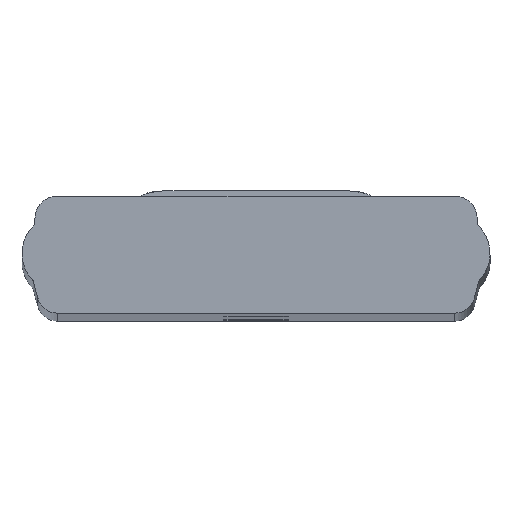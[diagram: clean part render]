
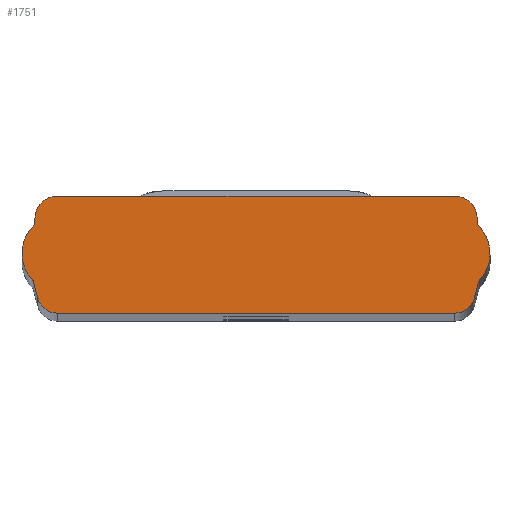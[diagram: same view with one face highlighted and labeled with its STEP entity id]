
A CAD part, top view. The second image highlights one B-rep face of the part: STEP entity #1751.
In plain terms, the highlighted planar face has unit normal (0, 0, 1).
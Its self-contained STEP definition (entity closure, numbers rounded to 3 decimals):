
#6 = VERTEX_POINT ( 'NONE', #3191 ) ;
#32 = LINE ( 'NONE', #732, #35 ) ;
#35 = VECTOR ( 'NONE', #725, 1000. ) ;
#193 = CARTESIAN_POINT ( 'NONE',  ( 21.692, 3.064, 448. ) ) ;
#194 = CARTESIAN_POINT ( 'NONE',  ( -21.268, 1.482, 448. ) ) ;
#337 = CARTESIAN_POINT ( 'NONE',  ( 21.795, 3.252, 448. ) ) ;
#393 = CARTESIAN_POINT ( 'NONE',  ( 19.5, 11.395, 448. ) ) ;
#425 = CARTESIAN_POINT ( 'NONE',  ( -21.692, 3.064, 448. ) ) ;
#525 = CARTESIAN_POINT ( 'NONE',  ( -19.5, 11.395, 448. ) ) ;
#597 = CARTESIAN_POINT ( 'NONE',  ( 21.268, 1.482, 448. ) ) ;
#651 = CARTESIAN_POINT ( 'NONE',  ( 19.336, 0., 448. ) ) ;
#725 = DIRECTION ( 'NONE',  ( -1., 0., 0. ) ) ;
#732 = CARTESIAN_POINT ( 'NONE',  ( -19.5, 11.395, 448. ) ) ;
#874 = CARTESIAN_POINT ( 'NONE',  ( -19.35, 9.22, 448. ) ) ;
#881 = PLANE ( 'NONE',  #2637 ) ;
#883 = DIRECTION ( 'NONE',  ( 0., 0., 1. ) ) ;
#884 = DIRECTION ( 'NONE',  ( 1., 0., 0. ) ) ;
#1462 = CARTESIAN_POINT ( 'NONE',  ( -19.01, 5.808, 448. ) ) ;
#1463 = DIRECTION ( 'NONE',  ( 0., 0., 1. ) ) ;
#1464 = DIRECTION ( 'NONE',  ( 1., 0., 0. ) ) ;
#1614 = VERTEX_POINT ( 'NONE', #2750 ) ;
#1623 = VERTEX_POINT ( 'NONE', #2846 ) ;
#1637 = VERTEX_POINT ( 'NONE', #2695 ) ;
#1751 = ADVANCED_FACE ( 'NONE', ( #5105 ), #881, .T. ) ;
#1917 = EDGE_CURVE ( 'NONE', #3513, #1637, #5334, .T. ) ;
#2327 = EDGE_CURVE ( 'NONE', #3354, #4907, #5956, .T. ) ;
#2333 = EDGE_CURVE ( 'NONE', #4907, #4905, #5963, .T. ) ;
#2335 = EDGE_CURVE ( 'NONE', #4905, #1623, #5967, .T. ) ;
#2336 = EDGE_CURVE ( 'NONE', #1623, #3513, #5969, .T. ) ;
#2338 = EDGE_CURVE ( 'NONE', #1637, #3325, #5971, .T. ) ;
#2340 = EDGE_CURVE ( 'NONE', #3325, #3328, #5974, .T. ) ;
#2342 = EDGE_CURVE ( 'NONE', #3328, #4929, #5978, .T. ) ;
#2344 = EDGE_CURVE ( 'NONE', #4929, #3346, #5981, .T. ) ;
#2369 = EDGE_CURVE ( 'NONE', #3346, #3206, #6010, .T. ) ;
#2371 = EDGE_CURVE ( 'NONE', #3206, #3330, #6013, .T. ) ;
#2375 = EDGE_CURVE ( 'NONE', #3330, #3248, #6017, .T. ) ;
#2377 = EDGE_CURVE ( 'NONE', #3248, #1614, #6020, .T. ) ;
#2380 = EDGE_CURVE ( 'NONE', #1614, #6, #6023, .T. ) ;
#2382 = EDGE_CURVE ( 'NONE', #6, #4913, #6026, .T. ) ;
#2386 = EDGE_CURVE ( 'NONE', #4913, #3289, #6031, .T. ) ;
#2405 = EDGE_CURVE ( 'NONE', #3289, #3354, #32, .T. ) ;
#2637 = AXIS2_PLACEMENT_3D ( 'NONE', #874, #883, #884 ) ;
#2695 = CARTESIAN_POINT ( 'NONE',  ( -21.795, 3.252, 448. ) ) ;
#2750 = CARTESIAN_POINT ( 'NONE',  ( 21.664, 8.499, 448. ) ) ;
#2798 = AXIS2_PLACEMENT_3D ( 'NONE', #1462, #1463, #1464 ) ;
#2846 = CARTESIAN_POINT ( 'NONE',  ( -21.664, 8.499, 448. ) ) ;
#2991 = AXIS2_PLACEMENT_3D ( 'NONE', #4619, #4621, #4582 ) ;
#2992 = AXIS2_PLACEMENT_3D ( 'NONE', #4702, #4704, #4705 ) ;
#2993 = AXIS2_PLACEMENT_3D ( 'NONE', #4709, #4710, #4711 ) ;
#2994 = AXIS2_PLACEMENT_3D ( 'NONE', #4761, #4764, #4767 ) ;
#2995 = AXIS2_PLACEMENT_3D ( 'NONE', #4749, #4750, #4752 ) ;
#3016 = AXIS2_PLACEMENT_3D ( 'NONE', #4661, #4794, #4823 ) ;
#3018 = AXIS2_PLACEMENT_3D ( 'NONE', #4665, #4791, #4601 ) ;
#3019 = AXIS2_PLACEMENT_3D ( 'NONE', #4800, #4729, #4585 ) ;
#3021 = AXIS2_PLACEMENT_3D ( 'NONE', #4777, #4821, #4781 ) ;
#3023 = AXIS2_PLACEMENT_3D ( 'NONE', #4799, #4725, #4754 ) ;
#3191 = CARTESIAN_POINT ( 'NONE',  ( 21.53, 8.82, 448. ) ) ;
#3206 = VERTEX_POINT ( 'NONE', #597 ) ;
#3248 = VERTEX_POINT ( 'NONE', #337 ) ;
#3289 = VERTEX_POINT ( 'NONE', #393 ) ;
#3325 = VERTEX_POINT ( 'NONE', #425 ) ;
#3328 = VERTEX_POINT ( 'NONE', #194 ) ;
#3330 = VERTEX_POINT ( 'NONE', #193 ) ;
#3346 = VERTEX_POINT ( 'NONE', #651 ) ;
#3354 = VERTEX_POINT ( 'NONE', #525 ) ;
#3513 = VERTEX_POINT ( 'NONE', #6128 ) ;
#3635 = EDGE_LOOP ( 'NONE', ( #4471, #4419, #4345, #4415, #4248, #4298, #4402, #4438, #4268, #4426, #4412, #4020, #4294, #3946, #4568, #4227, #4549 ) ) ;
#3946 = ORIENTED_EDGE ( 'NONE', *, *, #2375, .T. ) ;
#4020 = ORIENTED_EDGE ( 'NONE', *, *, #2369, .T. ) ;
#4227 = ORIENTED_EDGE ( 'NONE', *, *, #2380, .T. ) ;
#4248 = ORIENTED_EDGE ( 'NONE', *, *, #2335, .T. ) ;
#4268 = ORIENTED_EDGE ( 'NONE', *, *, #2340, .T. ) ;
#4294 = ORIENTED_EDGE ( 'NONE', *, *, #2371, .T. ) ;
#4298 = ORIENTED_EDGE ( 'NONE', *, *, #2336, .T. ) ;
#4345 = ORIENTED_EDGE ( 'NONE', *, *, #2327, .T. ) ;
#4402 = ORIENTED_EDGE ( 'NONE', *, *, #1917, .T. ) ;
#4412 = ORIENTED_EDGE ( 'NONE', *, *, #2344, .T. ) ;
#4415 = ORIENTED_EDGE ( 'NONE', *, *, #2333, .T. ) ;
#4419 = ORIENTED_EDGE ( 'NONE', *, *, #2405, .T. ) ;
#4426 = ORIENTED_EDGE ( 'NONE', *, *, #2342, .T. ) ;
#4438 = ORIENTED_EDGE ( 'NONE', *, *, #2338, .T. ) ;
#4471 = ORIENTED_EDGE ( 'NONE', *, *, #2386, .T. ) ;
#4549 = ORIENTED_EDGE ( 'NONE', *, *, #2382, .T. ) ;
#4568 = ORIENTED_EDGE ( 'NONE', *, *, #2377, .T. ) ;
#4582 = DIRECTION ( 'NONE',  ( 1., 0., 0. ) ) ;
#4585 = DIRECTION ( 'NONE',  ( 1., 0., 0. ) ) ;
#4594 = CARTESIAN_POINT ( 'NONE',  ( 21.53, 8.82, 448. ) ) ;
#4601 = DIRECTION ( 'NONE',  ( 1., 0., 0. ) ) ;
#4619 = CARTESIAN_POINT ( 'NONE',  ( -19.35, 9.22, 448. ) ) ;
#4621 = DIRECTION ( 'NONE',  ( 0., 0., 1. ) ) ;
#4631 = DIRECTION ( 'NONE',  ( 0.259, 0.966, 0. ) ) ;
#4646 = CARTESIAN_POINT ( 'NONE',  ( 21.268, 1.482, 448. ) ) ;
#4661 = CARTESIAN_POINT ( 'NONE',  ( 19.336, 2., 448. ) ) ;
#4665 = CARTESIAN_POINT ( 'NONE',  ( 22.127, 2.948, 448. ) ) ;
#4687 = CARTESIAN_POINT ( 'NONE',  ( -21.53, 8.82, 448. ) ) ;
#4690 = DIRECTION ( 'NONE',  ( 0., -1., 0. ) ) ;
#4702 = CARTESIAN_POINT ( 'NONE',  ( -21.98, 8.82, 448. ) ) ;
#4704 = DIRECTION ( 'NONE',  ( 0., 0., -1. ) ) ;
#4705 = DIRECTION ( 'NONE',  ( 1., 0., 0. ) ) ;
#4709 = CARTESIAN_POINT ( 'NONE',  ( -19.01, 5.808, 448. ) ) ;
#4710 = DIRECTION ( 'NONE',  ( 0., 0., 1. ) ) ;
#4711 = DIRECTION ( 'NONE',  ( 1., 0., 0. ) ) ;
#4715 = DIRECTION ( 'NONE',  ( 1., 0., 0. ) ) ;
#4725 = DIRECTION ( 'NONE',  ( 0., 0., 1. ) ) ;
#4727 = CARTESIAN_POINT ( 'NONE',  ( 19.336, 0., 448. ) ) ;
#4729 = DIRECTION ( 'NONE',  ( 0., 0., 1. ) ) ;
#4749 = CARTESIAN_POINT ( 'NONE',  ( -19.336, 2., 448. ) ) ;
#4750 = DIRECTION ( 'NONE',  ( 0., 0., 1. ) ) ;
#4752 = DIRECTION ( 'NONE',  ( 1., 0., 0. ) ) ;
#4754 = DIRECTION ( 'NONE',  ( 1., 0., 0. ) ) ;
#4761 = CARTESIAN_POINT ( 'NONE',  ( -22.127, 2.948, 448. ) ) ;
#4764 = DIRECTION ( 'NONE',  ( 0., 0., -1. ) ) ;
#4767 = DIRECTION ( 'NONE',  ( 1., 0., 0. ) ) ;
#4768 = CARTESIAN_POINT ( 'NONE',  ( -21.268, 1.482, 448. ) ) ;
#4775 = DIRECTION ( 'NONE',  ( 0.259, -0.966, 0. ) ) ;
#4777 = CARTESIAN_POINT ( 'NONE',  ( 21.98, 8.82, 448. ) ) ;
#4781 = DIRECTION ( 'NONE',  ( 1., 0., 0. ) ) ;
#4787 = DIRECTION ( 'NONE',  ( 0., 1., 0. ) ) ;
#4791 = DIRECTION ( 'NONE',  ( 0., 0., -1. ) ) ;
#4794 = DIRECTION ( 'NONE',  ( 0., 0., 1. ) ) ;
#4799 = CARTESIAN_POINT ( 'NONE',  ( 19.35, 9.22, 448. ) ) ;
#4800 = CARTESIAN_POINT ( 'NONE',  ( 19.01, 5.808, 448. ) ) ;
#4821 = DIRECTION ( 'NONE',  ( 0., 0., -1. ) ) ;
#4823 = DIRECTION ( 'NONE',  ( 1., 0., 0. ) ) ;
#4905 = VERTEX_POINT ( 'NONE', #6060 ) ;
#4907 = VERTEX_POINT ( 'NONE', #6063 ) ;
#4913 = VERTEX_POINT ( 'NONE', #6033 ) ;
#4929 = VERTEX_POINT ( 'NONE', #6126 ) ;
#5105 = FACE_OUTER_BOUND ( 'NONE', #3635, .T. ) ;
#5334 = CIRCLE ( 'NONE', #2798, 3.78 ) ;
#5956 = CIRCLE ( 'NONE', #2991, 2.18 ) ;
#5963 = LINE ( 'NONE', #4687, #5966 ) ;
#5966 = VECTOR ( 'NONE', #4690, 1000. ) ;
#5967 = CIRCLE ( 'NONE', #2992, 0.45 ) ;
#5969 = CIRCLE ( 'NONE', #2993, 3.78 ) ;
#5971 = CIRCLE ( 'NONE', #2994, 0.45 ) ;
#5974 = LINE ( 'NONE', #4768, #5977 ) ;
#5977 = VECTOR ( 'NONE', #4775, 1000. ) ;
#5978 = CIRCLE ( 'NONE', #2995, 2. ) ;
#5981 = LINE ( 'NONE', #4727, #5984 ) ;
#5984 = VECTOR ( 'NONE', #4715, 1000. ) ;
#6010 = CIRCLE ( 'NONE', #3016, 2. ) ;
#6013 = LINE ( 'NONE', #4646, #6016 ) ;
#6016 = VECTOR ( 'NONE', #4631, 1000. ) ;
#6017 = CIRCLE ( 'NONE', #3018, 0.45 ) ;
#6020 = CIRCLE ( 'NONE', #3019, 3.78 ) ;
#6023 = CIRCLE ( 'NONE', #3021, 0.45 ) ;
#6026 = LINE ( 'NONE', #4594, #6029 ) ;
#6029 = VECTOR ( 'NONE', #4787, 1000. ) ;
#6031 = CIRCLE ( 'NONE', #3023, 2.18 ) ;
#6033 = CARTESIAN_POINT ( 'NONE',  ( 21.53, 9.22, 448. ) ) ;
#6060 = CARTESIAN_POINT ( 'NONE',  ( -21.53, 8.82, 448. ) ) ;
#6063 = CARTESIAN_POINT ( 'NONE',  ( -21.53, 9.22, 448. ) ) ;
#6126 = CARTESIAN_POINT ( 'NONE',  ( -19.336, 0., 448. ) ) ;
#6128 = CARTESIAN_POINT ( 'NONE',  ( -22.79, 5.808, 448. ) ) ;
